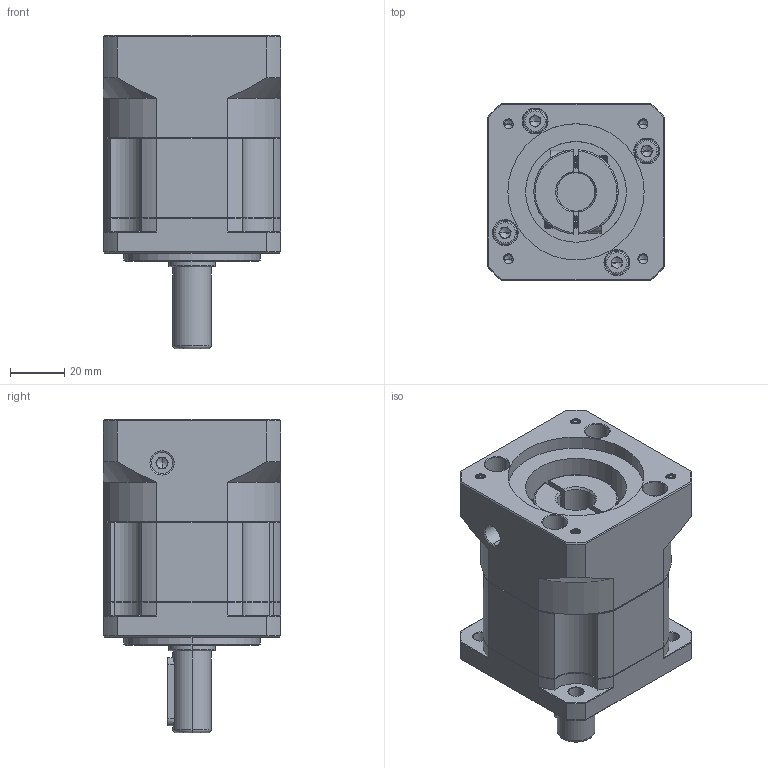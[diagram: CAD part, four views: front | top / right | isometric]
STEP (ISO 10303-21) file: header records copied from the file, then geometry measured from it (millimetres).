
FILE_DESCRIPTION (( 'STEP AP214' ), '1' );
FILE_NAME ('ZB60-D14-L1-14-50-70-M4.STEP', '2022-04-17T06:33:40', ( '' ), ( 'Microsoft' ), 'SwSTEP 2.0', 'SolidWorks 2016', '' );
FILE_SCHEMA (( 'AUTOMOTIVE_DESIGN' ));
Length unit declared in the file: millimetre
Products named in the file (1): ZB60-D14-L1-14-50-70-M4
Bounding box: 65 x 65 x 115 mm (x, y, z)
Volume: 268853 mm3; surface area: 54462.1 mm2
Topology: 6 solids, 6 shells, 1874 faces, 4977 edges, 3186 vertices
Faces by surface type: plane 879, cylinder 381, bspline 299, cone 279, torus 36
Entity records: 98781 total; most frequent: CARTESIAN_POINT 34016, ORIENTED_EDGE 9894, DIRECTION 8099, EDGE_CURVE 4947, VERTEX_POINT 3186, LINE 3009, VECTOR 3009, AXIS2_PLACEMENT_3D 2545
